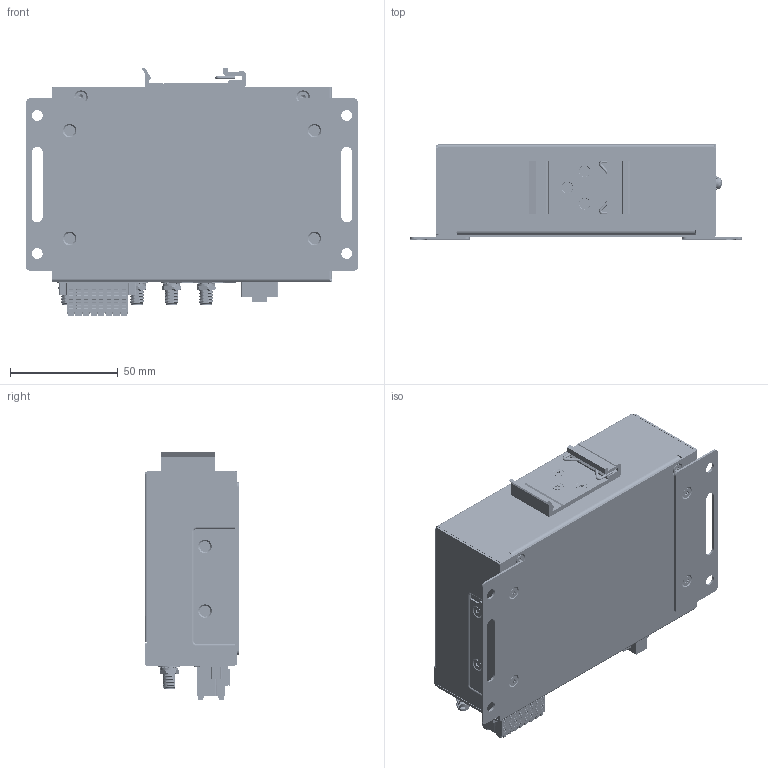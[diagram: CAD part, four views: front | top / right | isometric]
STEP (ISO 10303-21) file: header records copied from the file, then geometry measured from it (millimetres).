
FILE_DESCRIPTION (( 'STEP AP214' ), '1' );
FILE_NAME ('ICR-4272.STEP', '2025-11-19T11:54:28', ( '' ), ( '' ), 'SwSTEP 2.0', 'SolidWorks 2024', '' );
FILE_SCHEMA (( 'AUTOMOTIVE_DESIGN' ));
Length unit declared in the file: millimetre
Products named in the file (50): Pin_header_6x2P; BAT_CR1225; B-ICR41(2)xx-4_B-ICR42xxLS-4; V4I_ICR-41(2)XX_FIL_CDB; SCR_BK_M3_L5_PH_FL_TW; Tact_Switch_right_angle; SCR_BK_M3_L4_TX8_FL_SCR; Micro_SD_card_holder; PCB_ICR-4(1,2)xx; CDS_M_H5_W7,3_CHM3; ThermalTape; Chassis_package-ICR-4(1,2)xx; SCR_ZC_M3_L6_PH_PW; PAD_TH_W28_L14_H2,5; Pluggable_Term_Blk_2P; SCR_BK_M3_L5_PH_FL_TW_GLUE; Label_42W0C4G1; Radial_THT_Capacitor; Thermal_pad_46x30; ICR-4272; 21BB-CLK3-000001; CON_WR2; SCR_ZC_M3_L10_PH_PW; CON-ICR28-16; PCI_Female_Connector_52P; Battery_SMT_holder_Keystone-PN3000; AlluminiumCooler; Label_SIM_SD_IO_configuration_SIM_IO; Dip_Switch_2_positon; ChassisSimCover; Micro_SD_card_holder_part_2; POST_D4,5xL5; chassisWallMount; Case_for_ICR-4(1,2)xx; Lightpipe_4P; DIN_clip_set_ICR_series; Bottom_Base_for_ICR-4(1,2)xx; SIM_holder; ChassisTop; PCI_Female_Connector_67P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
Assembly tree (70 placements, depth 5):
  V4I_ICR-41(2)XX_FIL_CDB
  ICR-4272
    Chassis_package-ICR-4(1,2)xx
      Case_for_ICR-4(1,2)xx
        Bottom_Base_for_ICR-4(1,2)xx
          ChassisBottom
          CDS_M_H5_W7,3_CHM3  x4
        ChassisTop
      ChassisSimCover
      ThermalTape
      AlluminiumCooler
      chassisWallMount  x2
    B-ICR41(2)xx-4_B-ICR42xxLS-4
      PCB_ICR-4(1,2)xx
      PCI_Female_Connector_52P
      POST_D4,5xL5
      Battery_SMT_holder_Keystone-PN3000
      Lightpipe_4P  x2
      RJ45_2x_Connector
      USB_3_0_type_A
      IO_Header_16P
      POST_D6xL4
      PCI_Female_Connector_67P
      SIM_holder  x2
      Tact_Switch_right_angle
      Radial_THT_Capacitor
      Pluggable_Term_Blk_2P
      Micro_SD_card_holder
        Micro_SD_card_holder_part_1
        Micro_SD_card_holder_part_2
      Dip_Switch_2_positon
      Pin_header_6x2P
    MOD_FN990A28-HP
    BAT_CR1225
    Thermal_pad_46x30
    PAD_TH_W28_L14_H2,5  x2
    Label_42W0C4G1
    Label_SIM_SD_IO_configuration_SIM_IO
    ANT_PG_L150_SMA_I  x5
    CON_WR2
    CON-ICR28-16
    DIN_clip_set_ICR_series
      DIN_25_AL
      SCR_BK_M3_L5_PH_FL_TW_GLUE  x3
    SCR_ZC_M3_L6_PH_PW  x3
    SCR_ZC_M3_L10_PH_PW
    SCR_BK_M3_L4_TX8_FL_SCR  x4
    SCR_BK_M3_L5_PH_FL_TW  x6
    SCR_ZC_M3_L6_PH_PW_2
  21BB-CLK3-000001
Bounding box: 153.9 x 44 x 115.39 mm (x, y, z)
Volume: 105819 mm3; surface area: 210337.3 mm2
Topology: 176 solids, 225 shells, 19278 faces, 52448 edges, 34304 vertices
Faces by surface type: plane 10756, cylinder 4074, bspline 3701, cone 434, torus 223, sphere 90
Entity records: 670856 total; most frequent: CARTESIAN_POINT 216769, ORIENTED_EDGE 92078, DIRECTION 70957, EDGE_CURVE 46147, VERTEX_POINT 30133, VECTOR 29539, LINE 29539, AXIS2_PLACEMENT_3D 20709
